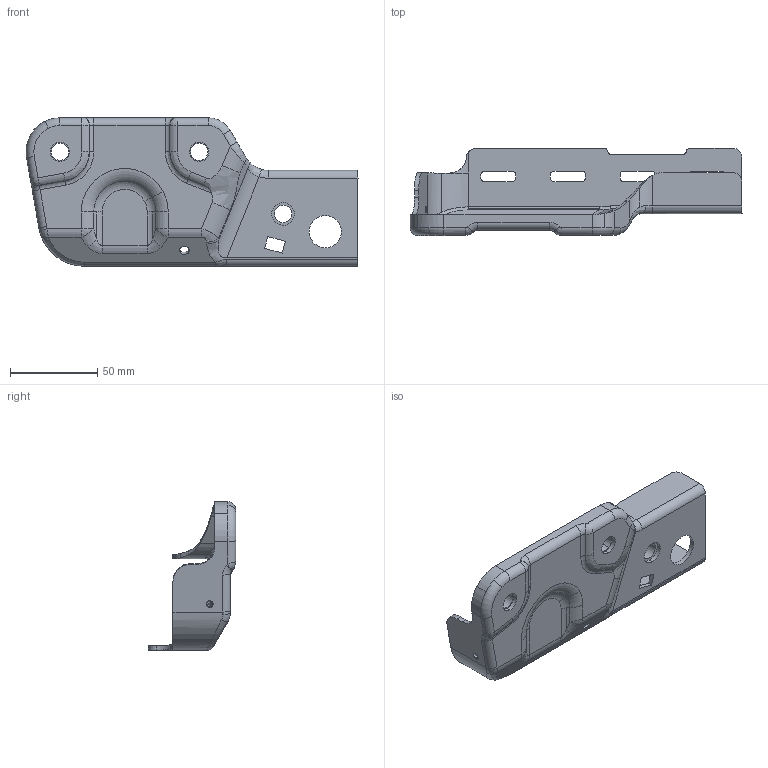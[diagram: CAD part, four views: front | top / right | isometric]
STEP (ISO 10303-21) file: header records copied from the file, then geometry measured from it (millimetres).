
FILE_DESCRIPTION(('CATIA V5 STEP Exchange'),'2;1');
FILE_NAME('C:\Users\nobody\Desktop\SHT0012269_C.stp','2024-03-05T02:07:32+00:00',('none'),('none'),'CATIA Version 5 Release 20 GA (IN-10)','CATIA V5 STEP AP203 Edition 2','none');
FILE_SCHEMA(('AP203_CONFIGURATION_CONTROLLED_3D_DESIGN_OF_MECHANICAL_PARTS_AND_ASSEMBLIES_MIM_LF { 1 0 10303 403 2 1 2}'));
Length unit declared in the file: millimetre
Products named in the file (4): SHT0012269; SHT0012267; Q37110; H4B-6805326
Assembly tree (4 placements, depth 2):
  SHT0012269
    SHT0012267
    Q37110  x2
    H4B-6805326
Bounding box: 190.69 x 50.14 x 85.19 mm (x, y, z)
Volume: 59921.1 mm3; surface area: 50707.3 mm2
Topology: 4 solids, 4 shells, 429 faces, 1128 edges, 705 vertices
Faces by surface type: cylinder 185, plane 111, bspline 58, torus 24, cone 19, extrusion 14, revolution 12, sphere 6
Entity records: 29907 total; most frequent: CARTESIAN_POINT 20854, ORIENTED_EDGE 2124, DIRECTION 1339, EDGE_CURVE 1062, VERTEX_POINT 665, AXIS2_PLACEMENT_3D 585, VECTOR 434, EDGE_LOOP 433
